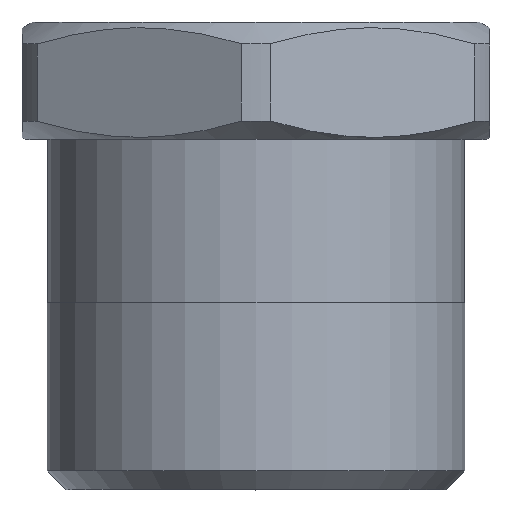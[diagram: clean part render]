
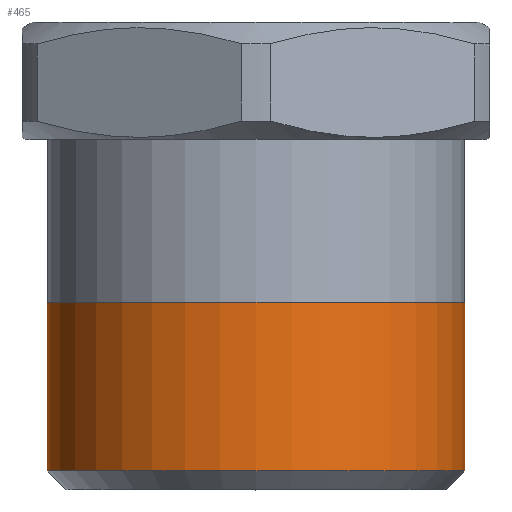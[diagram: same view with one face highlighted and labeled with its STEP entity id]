
A CAD part, top view. The second image highlights one B-rep face of the part: STEP entity #465.
In plain terms, the highlighted cylindrical face has radius 8.509 mm (diameter 17.018 mm), a full revolution.
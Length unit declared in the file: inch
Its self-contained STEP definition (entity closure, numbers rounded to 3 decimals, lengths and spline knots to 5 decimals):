
#28=CYLINDRICAL_SURFACE('',#536,0.335);
#59=CIRCLE('',#534,0.335);
#60=CIRCLE('',#535,0.335);
#61=CIRCLE('',#537,0.335);
#62=CIRCLE('',#538,0.335);
#92=FACE_OUTER_BOUND('',#121,.T.);
#121=EDGE_LOOP('',(#412,#413,#414,#415,#416,#417));
#146=LINE('',#843,#167);
#167=VECTOR('',#673,0.335);
#222=VERTEX_POINT('',#836);
#223=VERTEX_POINT('',#838);
#224=VERTEX_POINT('',#842);
#225=VERTEX_POINT('',#844);
#288=EDGE_CURVE('',#222,#223,#59,.T.);
#289=EDGE_CURVE('',#223,#222,#60,.T.);
#290=EDGE_CURVE('',#223,#224,#146,.T.);
#291=EDGE_CURVE('',#224,#225,#61,.T.);
#292=EDGE_CURVE('',#225,#224,#62,.T.);
#412=ORIENTED_EDGE('',*,*,#288,.F.);
#413=ORIENTED_EDGE('',*,*,#289,.F.);
#414=ORIENTED_EDGE('',*,*,#290,.T.);
#415=ORIENTED_EDGE('',*,*,#291,.T.);
#416=ORIENTED_EDGE('',*,*,#292,.T.);
#417=ORIENTED_EDGE('',*,*,#290,.F.);
#465=ADVANCED_FACE('',(#92),#28,.T.);
#534=AXIS2_PLACEMENT_3D('',#839,#667,#668);
#535=AXIS2_PLACEMENT_3D('',#840,#669,#670);
#536=AXIS2_PLACEMENT_3D('',#841,#671,#672);
#537=AXIS2_PLACEMENT_3D('',#845,#674,#675);
#538=AXIS2_PLACEMENT_3D('',#846,#676,#677);
#667=DIRECTION('center_axis',(0.,-1.,0.));
#668=DIRECTION('ref_axis',(0.,0.,1.));
#669=DIRECTION('center_axis',(0.,-1.,0.));
#670=DIRECTION('ref_axis',(0.,0.,1.));
#671=DIRECTION('center_axis',(0.,-1.,0.));
#672=DIRECTION('ref_axis',(0.,0.,-1.));
#673=DIRECTION('',(0.,1.,0.));
#674=DIRECTION('center_axis',(0.,-1.,0.));
#675=DIRECTION('ref_axis',(1.,0.,0.));
#676=DIRECTION('center_axis',(0.,-1.,0.));
#677=DIRECTION('ref_axis',(1.,0.,0.));
#836=CARTESIAN_POINT('',(0.,0.03,-0.335));
#838=CARTESIAN_POINT('',(0.,0.03,0.335));
#839=CARTESIAN_POINT('Origin',(0.,0.03,0.));
#840=CARTESIAN_POINT('Origin',(0.,0.03,0.));
#841=CARTESIAN_POINT('Origin',(0.,0.15,0.));
#842=CARTESIAN_POINT('',(0.,0.3,0.335));
#843=CARTESIAN_POINT('',(0.,0.15,0.335));
#844=CARTESIAN_POINT('',(0.,0.3,-0.335));
#845=CARTESIAN_POINT('Origin',(0.,0.3,0.));
#846=CARTESIAN_POINT('Origin',(0.,0.3,0.));
